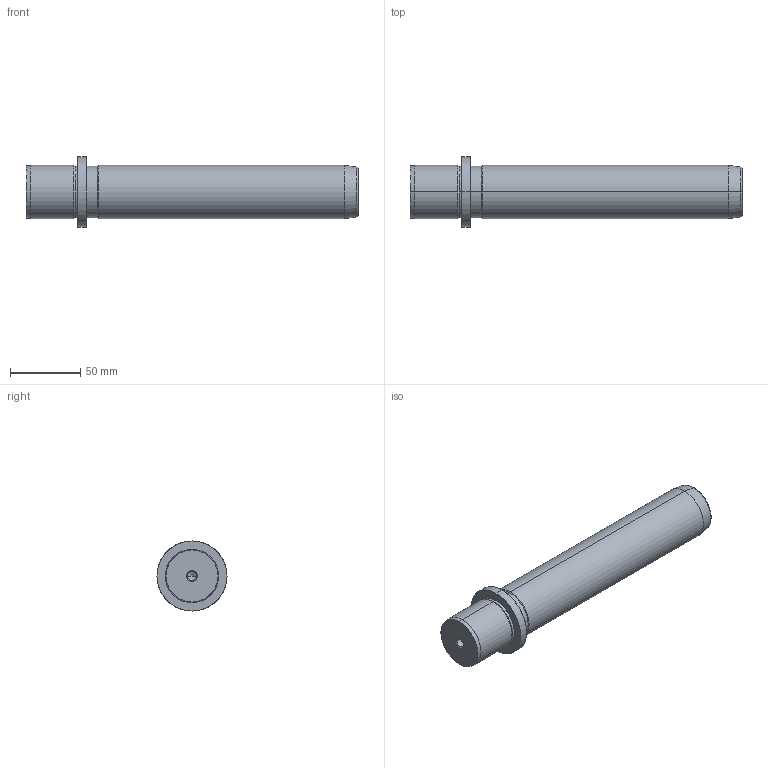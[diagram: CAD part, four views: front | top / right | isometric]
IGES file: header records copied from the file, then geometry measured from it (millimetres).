
Start section: START RECORD GO HERE.
Global section: file name: 719-38x200.igs; native system: DASSAULT SYSTEMES CATIA V5 R20 - www.3ds.com; preprocessor: CATIA Version 5 Release 20 ; author: Utente; organization: NB04-ASUS; date: 20210103.163823; units: millimetre
Bounding box: 237 x 50 x 50 mm (x, y, z)
Surface area: 33300.9 mm2 (no closed solid volume)
Topology: 0 solids, 0 shells, 36 faces, 196 edges, 192 vertices
Faces by surface type: revolution 32, plane 4
